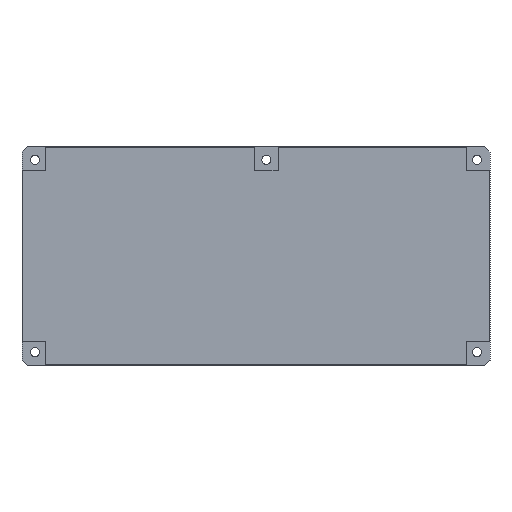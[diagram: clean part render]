
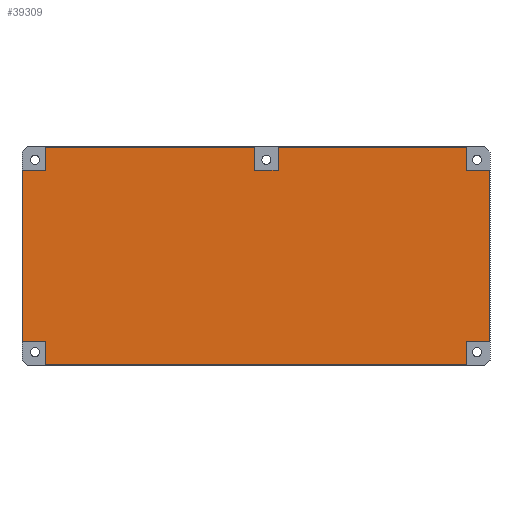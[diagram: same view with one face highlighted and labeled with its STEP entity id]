
A CAD part, front view. The second image highlights one B-rep face of the part: STEP entity #39309.
In plain terms, the highlighted planar face has unit normal (0, -1, 0).
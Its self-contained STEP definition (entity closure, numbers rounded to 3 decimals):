
#660 = EDGE_CURVE ( 'NONE', #38461, #60790, #73196, .T. ) ;
#1027 = VERTEX_POINT ( 'NONE', #61907 ) ;
#1107 = DIRECTION ( 'NONE',  ( 0., 0., 1. ) ) ;
#1669 = VERTEX_POINT ( 'NONE', #51133 ) ;
#2029 = LINE ( 'NONE', #106004, #21799 ) ;
#2084 = LINE ( 'NONE', #106057, #3154 ) ;
#3154 = VECTOR ( 'NONE', #94192, 1000. ) ;
#4439 = LINE ( 'NONE', #108395, #63545 ) ;
#5834 = CARTESIAN_POINT ( 'NONE',  ( 90., -8., -9. ) ) ;
#6070 = CARTESIAN_POINT ( 'NONE',  ( 98.5, -8., -0.1 ) ) ;
#6739 = DIRECTION ( 'NONE',  ( 0., 0., -1. ) ) ;
#7778 = EDGE_CURVE ( 'NONE', #27263, #80639, #17670, .T. ) ;
#8895 = EDGE_CURVE ( 'NONE', #30594, #38461, #95605, .T. ) ;
#11284 = LINE ( 'NONE', #115287, #33046 ) ;
#11522 = VECTOR ( 'NONE', #74209, 1000. ) ;
#11663 = VECTOR ( 'NONE', #103853, 1000. ) ;
#11721 = LINE ( 'NONE', #115744, #11663 ) ;
#12052 = DIRECTION ( 'NONE',  ( 0., 0., -1. ) ) ;
#13008 = CARTESIAN_POINT ( 'NONE',  ( 171., -8., -42. ) ) ;
#13234 = DIRECTION ( 'NONE',  ( 1., 0., 0. ) ) ;
#13545 = ORIENTED_EDGE ( 'NONE', *, *, #77259, .T. ) ;
#15777 = EDGE_CURVE ( 'NONE', #40276, #96816, #11721, .T. ) ;
#16360 = ORIENTED_EDGE ( 'NONE', *, *, #77348, .F. ) ;
#17209 = ORIENTED_EDGE ( 'NONE', *, *, #109681, .T. ) ;
#17670 = LINE ( 'NONE', #5834, #19459 ) ;
#18574 = CARTESIAN_POINT ( 'NONE',  ( 9., -8., -42. ) ) ;
#19459 = VECTOR ( 'NONE', #109809, 1000. ) ;
#19947 = EDGE_CURVE ( 'NONE', #46559, #27263, #2029, .T. ) ;
#21340 = VECTOR ( 'NONE', #1107, 1000. ) ;
#21547 = EDGE_CURVE ( 'NONE', #1027, #40276, #97992, .T. ) ;
#21799 = VECTOR ( 'NONE', #94139, 1000. ) ;
#22689 = CARTESIAN_POINT ( 'NONE',  ( 179.9, -8., -9. ) ) ;
#22776 = ORIENTED_EDGE ( 'NONE', *, *, #7778, .T. ) ;
#23936 = DIRECTION ( 'NONE',  ( 0., -1., 0. ) ) ;
#24801 = CARTESIAN_POINT ( 'NONE',  ( 98.5, -8., -9. ) ) ;
#24873 = LINE ( 'NONE', #13008, #21340 ) ;
#24894 = CARTESIAN_POINT ( 'NONE',  ( 0.1, -8., -9. ) ) ;
#25100 = CARTESIAN_POINT ( 'NONE',  ( 49.25, -8., -0.1 ) ) ;
#25841 = ORIENTED_EDGE ( 'NONE', *, *, #660, .T. ) ;
#26433 = DIRECTION ( 'NONE',  ( 0., 0., -1. ) ) ;
#26600 = VECTOR ( 'NONE', #83671, 1000. ) ;
#27263 = VERTEX_POINT ( 'NONE', #24801 ) ;
#29836 = CARTESIAN_POINT ( 'NONE',  ( 171., -8., -9. ) ) ;
#30431 = LINE ( 'NONE', #18574, #91984 ) ;
#30594 = VERTEX_POINT ( 'NONE', #82292 ) ;
#33046 = VECTOR ( 'NONE', #103399, 1000. ) ;
#34540 = ORIENTED_EDGE ( 'NONE', *, *, #91717, .T. ) ;
#35046 = DIRECTION ( 'NONE',  ( 0., 0., 1. ) ) ;
#35722 = CARTESIAN_POINT ( 'NONE',  ( 0.1, -8., -0.1 ) ) ;
#35907 = CARTESIAN_POINT ( 'NONE',  ( 171., -8., -75. ) ) ;
#38275 = CARTESIAN_POINT ( 'NONE',  ( 0.1, -8., -42. ) ) ;
#38434 = VERTEX_POINT ( 'NONE', #106094 ) ;
#38461 = VERTEX_POINT ( 'NONE', #91386 ) ;
#39046 = EDGE_CURVE ( 'NONE', #38434, #46820, #88343, .T. ) ;
#39309 = ADVANCED_FACE ( 'NONE', ( #73784 ), #47557, .T. ) ;
#40276 = VERTEX_POINT ( 'NONE', #22689 ) ;
#40820 = EDGE_CURVE ( 'NONE', #1669, #77247, #30431, .T. ) ;
#46559 = VERTEX_POINT ( 'NONE', #6070 ) ;
#46820 = VERTEX_POINT ( 'NONE', #35907 ) ;
#46876 = CARTESIAN_POINT ( 'NONE',  ( 89.5, -8., -42. ) ) ;
#47557 = PLANE ( 'NONE',  #88728 ) ;
#48677 = VECTOR ( 'NONE', #71837, 1000. ) ;
#49451 = DIRECTION ( 'NONE',  ( 0., 0., -1. ) ) ;
#50107 = LINE ( 'NONE', #38275, #97850 ) ;
#51133 = CARTESIAN_POINT ( 'NONE',  ( 9., -8., -0.1 ) ) ;
#51791 = ORIENTED_EDGE ( 'NONE', *, *, #108797, .T. ) ;
#57999 = EDGE_CURVE ( 'NONE', #80639, #113872, #94411, .T. ) ;
#58125 = VECTOR ( 'NONE', #64669, 1000. ) ;
#59162 = CARTESIAN_POINT ( 'NONE',  ( 171., -8., -0.1 ) ) ;
#60672 = LINE ( 'NONE', #25100, #83350 ) ;
#60790 = VERTEX_POINT ( 'NONE', #88905 ) ;
#61351 = CARTESIAN_POINT ( 'NONE',  ( 9., -8., -42. ) ) ;
#61907 = CARTESIAN_POINT ( 'NONE',  ( 179.9, -8., -75. ) ) ;
#63545 = VECTOR ( 'NONE', #96517, 1000. ) ;
#64669 = DIRECTION ( 'NONE',  ( 0., 0., 1. ) ) ;
#64779 = CARTESIAN_POINT ( 'NONE',  ( 89.5, -8., -0.1 ) ) ;
#64953 = VERTEX_POINT ( 'NONE', #59162 ) ;
#66600 = VECTOR ( 'NONE', #49451, 1000. ) ;
#70633 = ORIENTED_EDGE ( 'NONE', *, *, #15777, .T. ) ;
#71837 = DIRECTION ( 'NONE',  ( 1., 0., 0. ) ) ;
#72332 = ORIENTED_EDGE ( 'NONE', *, *, #19947, .T. ) ;
#73196 = LINE ( 'NONE', #61351, #66600 ) ;
#73784 = FACE_OUTER_BOUND ( 'NONE', #106349, .T. ) ;
#74209 = DIRECTION ( 'NONE',  ( 0., 0., 1. ) ) ;
#76479 = CARTESIAN_POINT ( 'NONE',  ( 171., -8., -42. ) ) ;
#77247 = VERTEX_POINT ( 'NONE', #80124 ) ;
#77259 = EDGE_CURVE ( 'NONE', #46820, #1027, #107466, .T. ) ;
#77348 = EDGE_CURVE ( 'NONE', #1669, #113872, #60672, .T. ) ;
#79934 = ORIENTED_EDGE ( 'NONE', *, *, #82096, .T. ) ;
#80124 = CARTESIAN_POINT ( 'NONE',  ( 9., -8., -9. ) ) ;
#80639 = VERTEX_POINT ( 'NONE', #108082 ) ;
#82096 = EDGE_CURVE ( 'NONE', #96816, #64953, #24873, .T. ) ;
#82292 = CARTESIAN_POINT ( 'NONE',  ( 0.1, -8., -75. ) ) ;
#83350 = VECTOR ( 'NONE', #13234, 1000. ) ;
#83671 = DIRECTION ( 'NONE',  ( 1., 0., 0. ) ) ;
#83687 = CARTESIAN_POINT ( 'NONE',  ( 90., -8., -75. ) ) ;
#86077 = CARTESIAN_POINT ( 'NONE',  ( 179.9, -8., -42. ) ) ;
#88343 = LINE ( 'NONE', #76479, #58125 ) ;
#88728 = AXIS2_PLACEMENT_3D ( 'NONE', #35722, #23936, #12052 ) ;
#88905 = CARTESIAN_POINT ( 'NONE',  ( 9., -8., -83.9 ) ) ;
#90296 = ORIENTED_EDGE ( 'NONE', *, *, #39046, .T. ) ;
#91386 = CARTESIAN_POINT ( 'NONE',  ( 9., -8., -75. ) ) ;
#91717 = EDGE_CURVE ( 'NONE', #64953, #46559, #11284, .T. ) ;
#91984 = VECTOR ( 'NONE', #6739, 1000. ) ;
#94139 = DIRECTION ( 'NONE',  ( 0., 0., -1. ) ) ;
#94192 = DIRECTION ( 'NONE',  ( 1., 0., 0. ) ) ;
#94411 = LINE ( 'NONE', #46876, #109251 ) ;
#94869 = ORIENTED_EDGE ( 'NONE', *, *, #21547, .T. ) ;
#95036 = ORIENTED_EDGE ( 'NONE', *, *, #57999, .T. ) ;
#95593 = CARTESIAN_POINT ( 'NONE',  ( 90., -8., -75. ) ) ;
#95605 = LINE ( 'NONE', #83687, #48677 ) ;
#96517 = DIRECTION ( 'NONE',  ( -1., 0., 0. ) ) ;
#96816 = VERTEX_POINT ( 'NONE', #29836 ) ;
#97850 = VECTOR ( 'NONE', #26433, 1000. ) ;
#97992 = LINE ( 'NONE', #86077, #11522 ) ;
#100051 = ORIENTED_EDGE ( 'NONE', *, *, #8895, .T. ) ;
#102039 = ORIENTED_EDGE ( 'NONE', *, *, #40820, .T. ) ;
#103399 = DIRECTION ( 'NONE',  ( -1., 0., 0. ) ) ;
#103853 = DIRECTION ( 'NONE',  ( -1., 0., 0. ) ) ;
#106004 = CARTESIAN_POINT ( 'NONE',  ( 98.5, -8., -42. ) ) ;
#106057 = CARTESIAN_POINT ( 'NONE',  ( 90., -8., -83.9 ) ) ;
#106094 = CARTESIAN_POINT ( 'NONE',  ( 171., -8., -83.9 ) ) ;
#106349 = EDGE_LOOP ( 'NONE', ( #72332, #22776, #95036, #16360, #102039, #51791, #113075, #100051, #25841, #17209, #90296, #13545, #94869, #70633, #79934, #34540 ) ) ;
#107466 = LINE ( 'NONE', #95593, #26600 ) ;
#107782 = EDGE_CURVE ( 'NONE', #108295, #30594, #50107, .T. ) ;
#108082 = CARTESIAN_POINT ( 'NONE',  ( 89.5, -8., -9. ) ) ;
#108295 = VERTEX_POINT ( 'NONE', #24894 ) ;
#108395 = CARTESIAN_POINT ( 'NONE',  ( 90., -8., -9. ) ) ;
#108797 = EDGE_CURVE ( 'NONE', #77247, #108295, #4439, .T. ) ;
#109251 = VECTOR ( 'NONE', #35046, 1000. ) ;
#109681 = EDGE_CURVE ( 'NONE', #60790, #38434, #2084, .T. ) ;
#109809 = DIRECTION ( 'NONE',  ( -1., 0., 0. ) ) ;
#113075 = ORIENTED_EDGE ( 'NONE', *, *, #107782, .T. ) ;
#113872 = VERTEX_POINT ( 'NONE', #64779 ) ;
#115287 = CARTESIAN_POINT ( 'NONE',  ( 90., -8., -0.1 ) ) ;
#115744 = CARTESIAN_POINT ( 'NONE',  ( 90., -8., -9. ) ) ;
